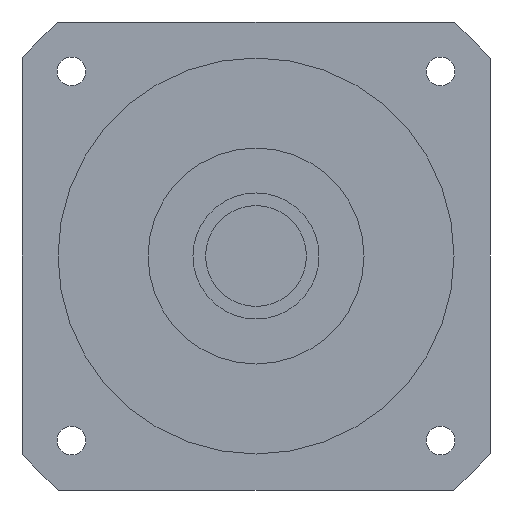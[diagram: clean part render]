
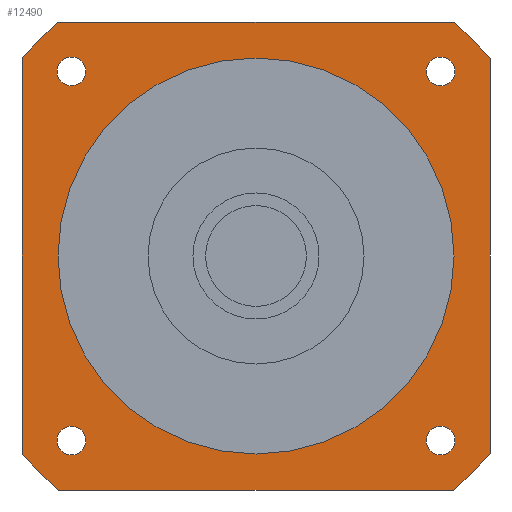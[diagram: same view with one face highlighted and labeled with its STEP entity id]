
A CAD part, left-side view. The second image highlights one B-rep face of the part: STEP entity #12490.
In plain terms, the highlighted planar face has unit normal (-1, 0, 0) as drawn and (0, 0, -1) by its records, which use the part's own axes.
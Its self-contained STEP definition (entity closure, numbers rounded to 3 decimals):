
#8890=CARTESIAN_POINT('',(47.265,-51.265,-69.6));
#8900=VERTEX_POINT('',#8890);
#8930=CARTESIAN_POINT('',(51.265,-51.265,-69.6));
#8940=DIRECTION('',(0.,0.,-1.));
#8950=DIRECTION('',(1.,0.,0.));
#8960=AXIS2_PLACEMENT_3D('',#8930,#8940,#8950);
#8970=CIRCLE('',#8960,4.);
#8980=CARTESIAN_POINT('',(55.265,-51.265,-69.6));
#8990=VERTEX_POINT('',#8980);
#9000=EDGE_CURVE('',#8990,#8900,#8970,.T.);
#9240=CARTESIAN_POINT('',(65.,-54.772,-69.6));
#9250=VERTEX_POINT('',#9240);
#9300=CARTESIAN_POINT('',(0.,0.,
-69.6));
#9310=DIRECTION('',(0.,0.,-1.));
#9320=DIRECTION('',(1.,0.,0.));
#9330=AXIS2_PLACEMENT_3D('',#9300,#9310,#9320);
#9340=CIRCLE('',#9330,85.);
#9350=CARTESIAN_POINT('',(54.772,-65.,-69.6));
#9360=VERTEX_POINT('',#9350);
#9370=EDGE_CURVE('',#9250,#9360,#9340,.T.);
#11020=CARTESIAN_POINT('',(-51.265,-47.265,-69.6));
#11030=VERTEX_POINT('',#11020);
#11060=CARTESIAN_POINT('',(-51.265,-51.265,-69.6));
#11070=DIRECTION('',(0.,0.,-1.));
#11080=DIRECTION('',(0.,-1.,0.));
#11090=AXIS2_PLACEMENT_3D('',#11060,#11070,#11080);
#11100=CIRCLE('',#11090,4.);
#11110=CARTESIAN_POINT('',(-51.265,-55.265,-69.6));
#11120=VERTEX_POINT('',#11110);
#11130=EDGE_CURVE('',#11120,#11030,#11100,.T.);
#11250=CARTESIAN_POINT('',(65.,65.,-69.6));
#11260=DIRECTION('',(0.,0.,-1.));
#11270=DIRECTION('',(1.,0.,0.));
#11280=AXIS2_PLACEMENT_3D('',#11250,#11260,#11270);
#11290=PLANE('',#11280);
#11300=ORIENTED_EDGE('',*,*,#11130,.F.);
#11310=EDGE_CURVE('',#11030,#11120,#11100,.T.);
#11320=ORIENTED_EDGE('',*,*,#11310,.F.);
#11330=EDGE_LOOP('',(#11320,#11300));
#11340=FACE_BOUND('',#11330,.T.);
#11350=CARTESIAN_POINT('',(-51.265,51.265,-69.6));
#11360=DIRECTION('',(0.,0.,-1.));
#11370=DIRECTION('',(-1.,0.,0.));
#11380=AXIS2_PLACEMENT_3D('',#11350,#11360,#11370);
#11390=CIRCLE('',#11380,4.);
#11400=CARTESIAN_POINT('',(-55.265,51.265,-69.6));
#11410=VERTEX_POINT('',#11400);
#11420=CARTESIAN_POINT('',(-47.265,51.265,-69.6));
#11430=VERTEX_POINT('',#11420);
#11440=EDGE_CURVE('',#11410,#11430,#11390,.T.);
#11450=ORIENTED_EDGE('',*,*,#11440,.F.);
#11460=EDGE_CURVE('',#11430,#11410,#11390,.T.);
#11470=ORIENTED_EDGE('',*,*,#11460,.F.);
#11480=EDGE_LOOP('',(#11470,#11450));
#11490=FACE_BOUND('',#11480,.T.);
#11500=CARTESIAN_POINT('',(51.265,51.265,-69.6));
#11510=DIRECTION('',(0.,0.,-1.));
#11520=DIRECTION('',(0.,1.,0.));
#11530=AXIS2_PLACEMENT_3D('',#11500,#11510,#11520);
#11540=CIRCLE('',#11530,4.);
#11550=CARTESIAN_POINT('',(51.265,55.265,-69.6));
#11560=VERTEX_POINT('',#11550);
#11570=CARTESIAN_POINT('',(51.265,47.265,-69.6));
#11580=VERTEX_POINT('',#11570);
#11590=EDGE_CURVE('',#11560,#11580,#11540,.T.);
#11600=ORIENTED_EDGE('',*,*,#11590,.F.);
#11610=EDGE_CURVE('',#11580,#11560,#11540,.T.);
#11620=ORIENTED_EDGE('',*,*,#11610,.F.);
#11630=EDGE_LOOP('',(#11620,#11600));
#11640=FACE_BOUND('',#11630,.T.);
#11650=CARTESIAN_POINT('',(0.,0.,
-69.6));
#11660=DIRECTION('',(0.,0.,1.));
#11670=DIRECTION('',(0.,1.,0.));
#11680=AXIS2_PLACEMENT_3D('',#11650,#11660,#11670);
#11690=CIRCLE('',#11680,55.);
#11700=CARTESIAN_POINT('',(-55.,0.,-69.6));
#11710=VERTEX_POINT('',#11700);
#11720=CARTESIAN_POINT('',(55.,0.,-69.6));
#11730=VERTEX_POINT('',#11720);
#11740=EDGE_CURVE('',#11710,#11730,#11690,.T.);
#11750=ORIENTED_EDGE('',*,*,#11740,.T.);
#11760=CARTESIAN_POINT('',(0.,55.,-69.6));
#11770=VERTEX_POINT('',#11760);
#11780=EDGE_CURVE('',#11770,#11710,#11690,.T.);
#11790=ORIENTED_EDGE('',*,*,#11780,.T.);
#11800=EDGE_CURVE('',#11730,#11770,#11690,.T.);
#11810=ORIENTED_EDGE('',*,*,#11800,.T.);
#11820=EDGE_LOOP('',(#11810,#11790,#11750));
#11830=FACE_BOUND('',#11820,.T.);
#11840=CARTESIAN_POINT('',(-65.,65.,-69.6));
#11850=DIRECTION('',(1.,0.,0.));
#11860=VECTOR('',#11850,1000.);
#11870=LINE('',#11840,#11860);
#11880=CARTESIAN_POINT('',(-54.772,65.,-69.6));
#11890=VERTEX_POINT('',#11880);
#11900=CARTESIAN_POINT('',(54.772,65.,-69.6));
#11910=VERTEX_POINT('',#11900);
#11920=EDGE_CURVE('',#11890,#11910,#11870,.T.);
#11930=ORIENTED_EDGE('',*,*,#11920,.T.);
#11940=CARTESIAN_POINT('',(0.,0.,
-69.6));
#11950=DIRECTION('',(0.,0.,-1.));
#11960=DIRECTION('',(1.,0.,0.));
#11970=AXIS2_PLACEMENT_3D('',#11940,#11950,#11960);
#11980=CIRCLE('',#11970,85.);
#11990=CARTESIAN_POINT('',(-65.,54.772,-69.6));
#12000=VERTEX_POINT('',#11990);
#12010=EDGE_CURVE('',#12000,#11890,#11980,.T.);
#12020=ORIENTED_EDGE('',*,*,#12010,.T.);
#12030=CARTESIAN_POINT('',(-65.,-65.,-69.6));
#12040=DIRECTION('',(0.,1.,0.));
#12050=VECTOR('',#12040,1000.);
#12060=LINE('',#12030,#12050);
#12070=CARTESIAN_POINT('',(-65.,-54.772,-69.6));
#12080=VERTEX_POINT('',#12070);
#12090=EDGE_CURVE('',#12080,#12000,#12060,.T.);
#12100=ORIENTED_EDGE('',*,*,#12090,.T.);
#12110=CARTESIAN_POINT('',(0.,0.,
-69.6));
#12120=DIRECTION('',(0.,0.,-1.));
#12130=DIRECTION('',(1.,0.,0.));
#12140=AXIS2_PLACEMENT_3D('',#12110,#12120,#12130);
#12150=CIRCLE('',#12140,85.);
#12160=CARTESIAN_POINT('',(-54.772,-65.,-69.6));
#12170=VERTEX_POINT('',#12160);
#12180=EDGE_CURVE('',#12170,#12080,#12150,.T.);
#12190=ORIENTED_EDGE('',*,*,#12180,.T.);
#12200=CARTESIAN_POINT('',(65.,-65.,-69.6));
#12210=DIRECTION('',(-1.,0.,0.));
#12220=VECTOR('',#12210,1000.);
#12230=LINE('',#12200,#12220);
#12240=EDGE_CURVE('',#9360,#12170,#12230,.T.);
#12250=ORIENTED_EDGE('',*,*,#12240,.T.);
#12260=ORIENTED_EDGE('',*,*,#9370,.T.);
#12270=CARTESIAN_POINT('',(65.,65.,-69.6));
#12280=DIRECTION('',(0.,-1.,0.));
#12290=VECTOR('',#12280,1000.);
#12300=LINE('',#12270,#12290);
#12310=CARTESIAN_POINT('',(65.,54.772,-69.6));
#12320=VERTEX_POINT('',#12310);
#12330=EDGE_CURVE('',#12320,#9250,#12300,.T.);
#12340=ORIENTED_EDGE('',*,*,#12330,.T.);
#12350=CARTESIAN_POINT('',(0.,0.,
-69.6));
#12360=DIRECTION('',(0.,0.,-1.));
#12370=DIRECTION('',(1.,0.,0.));
#12380=AXIS2_PLACEMENT_3D('',#12350,#12360,#12370);
#12390=CIRCLE('',#12380,85.);
#12400=EDGE_CURVE('',#11910,#12320,#12390,.T.);
#12410=ORIENTED_EDGE('',*,*,#12400,.T.);
#12420=EDGE_LOOP('',(#12410,#12340,#12260,#12250,#12190,#12100,#12020,
#11930));
#12430=FACE_OUTER_BOUND('',#12420,.T.);
#12440=ORIENTED_EDGE('',*,*,#9000,.F.);
#12450=EDGE_CURVE('',#8900,#8990,#8970,.T.);
#12460=ORIENTED_EDGE('',*,*,#12450,.F.);
#12470=EDGE_LOOP('',(#12460,#12440));
#12480=FACE_BOUND('',#12470,.T.);
#12490=ADVANCED_FACE('',(#11340,#11490,#11640,#11830,#12430,#12480),
#11290,.T.);
